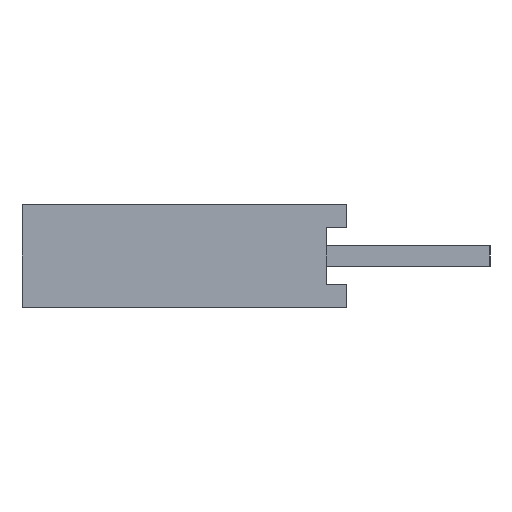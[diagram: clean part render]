
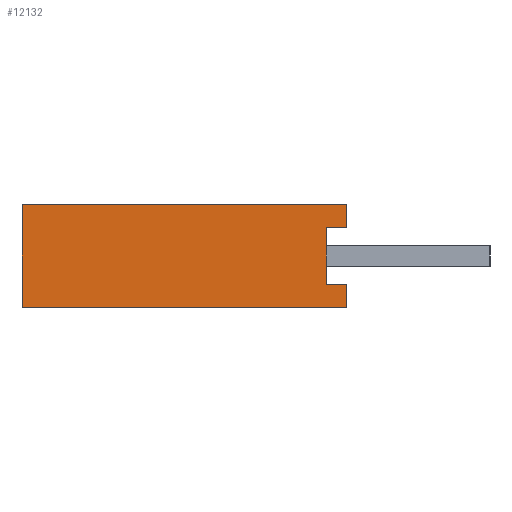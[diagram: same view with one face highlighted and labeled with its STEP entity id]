
A CAD part, left-side view. The second image highlights one B-rep face of the part: STEP entity #12132.
In plain terms, the highlighted planar face has unit normal (-1, 0, 0).
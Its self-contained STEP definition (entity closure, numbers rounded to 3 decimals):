
#436 = CARTESIAN_POINT ( 'NONE',  ( -2.278, -3.149, -1. ) ) ;
#488 = LINE ( 'NONE', #5746, #3385 ) ;
#587 = EDGE_CURVE ( 'NONE', #16760, #14619, #3396, .T. ) ;
#736 = ORIENTED_EDGE ( 'NONE', *, *, #6386, .T. ) ;
#924 = ORIENTED_EDGE ( 'NONE', *, *, #15681, .T. ) ;
#991 = ORIENTED_EDGE ( 'NONE', *, *, #9697, .F. ) ;
#1081 = DIRECTION ( 'NONE',  ( 0., -1., 0. ) ) ;
#1096 = DIRECTION ( 'NONE',  ( 0., 0., 1. ) ) ;
#1111 = CARTESIAN_POINT ( 'NONE',  ( -2.278, 3.201, -1. ) ) ;
#1449 = VERTEX_POINT ( 'NONE', #8250 ) ;
#1476 = EDGE_CURVE ( 'NONE', #16760, #6050, #8951, .T. ) ;
#1763 = ORIENTED_EDGE ( 'NONE', *, *, #587, .T. ) ;
#1770 = AXIS2_PLACEMENT_3D ( 'NONE', #11425, #6393, #6047 ) ;
#2109 = CARTESIAN_POINT ( 'NONE',  ( -2.278, 3.201, 1. ) ) ;
#3385 = VECTOR ( 'NONE', #9904, 1000. ) ;
#3396 = LINE ( 'NONE', #2109, #9323 ) ;
#3675 = CARTESIAN_POINT ( 'NONE',  ( -2.278, 3.201, 1. ) ) ;
#3690 = ORIENTED_EDGE ( 'NONE', *, *, #9805, .T. ) ;
#3997 = DIRECTION ( 'NONE',  ( 0., 0., -1. ) ) ;
#4239 = DIRECTION ( 'NONE',  ( 0., -1., 0. ) ) ;
#5315 = CARTESIAN_POINT ( 'NONE',  ( -2.278, -2.749, 0.55 ) ) ;
#5746 = CARTESIAN_POINT ( 'NONE',  ( -2.278, -3.149, -0.55 ) ) ;
#5776 = LINE ( 'NONE', #11056, #10278 ) ;
#5981 = VERTEX_POINT ( 'NONE', #11048 ) ;
#6033 = LINE ( 'NONE', #1111, #7498 ) ;
#6047 = DIRECTION ( 'NONE',  ( 0., 1., 0. ) ) ;
#6050 = VERTEX_POINT ( 'NONE', #6976 ) ;
#6068 = CARTESIAN_POINT ( 'NONE',  ( -2.278, -3.149, 1. ) ) ;
#6386 = EDGE_CURVE ( 'NONE', #6884, #5981, #488, .T. ) ;
#6393 = DIRECTION ( 'NONE',  ( 1., 0., 0. ) ) ;
#6884 = VERTEX_POINT ( 'NONE', #12727 ) ;
#6918 = ORIENTED_EDGE ( 'NONE', *, *, #1476, .F. ) ;
#6976 = CARTESIAN_POINT ( 'NONE',  ( -2.278, -3.149, 1. ) ) ;
#7498 = VECTOR ( 'NONE', #11312, 1000. ) ;
#7764 = EDGE_CURVE ( 'NONE', #5981, #13530, #15538, .T. ) ;
#8250 = CARTESIAN_POINT ( 'NONE',  ( -2.278, -3.149, 0.55 ) ) ;
#8951 = LINE ( 'NONE', #3675, #12228 ) ;
#9061 = EDGE_LOOP ( 'NONE', ( #15730, #924, #12943, #6918, #1763, #3690, #991, #736 ) ) ;
#9110 = VECTOR ( 'NONE', #1096, 1000. ) ;
#9323 = VECTOR ( 'NONE', #3997, 1000. ) ;
#9697 = EDGE_CURVE ( 'NONE', #6884, #10883, #5776, .T. ) ;
#9805 = EDGE_CURVE ( 'NONE', #14619, #10883, #6033, .T. ) ;
#9904 = DIRECTION ( 'NONE',  ( 0., 1., 0. ) ) ;
#10132 = PLANE ( 'NONE',  #1770 ) ;
#10278 = VECTOR ( 'NONE', #16327, 1000. ) ;
#10810 = LINE ( 'NONE', #16084, #12296 ) ;
#10883 = VERTEX_POINT ( 'NONE', #436 ) ;
#11048 = CARTESIAN_POINT ( 'NONE',  ( -2.278, -2.749, -0.55 ) ) ;
#11056 = CARTESIAN_POINT ( 'NONE',  ( -2.278, -3.149, 1. ) ) ;
#11312 = DIRECTION ( 'NONE',  ( 0., -1., 0. ) ) ;
#11425 = CARTESIAN_POINT ( 'NONE',  ( -2.278, 3.201, 1. ) ) ;
#11812 = CARTESIAN_POINT ( 'NONE',  ( -2.278, -2.749, 0.55 ) ) ;
#11875 = EDGE_CURVE ( 'NONE', #6050, #1449, #16886, .T. ) ;
#12132 = ADVANCED_FACE ( 'NONE', ( #15663 ), #10132, .F. ) ;
#12228 = VECTOR ( 'NONE', #1081, 1000. ) ;
#12296 = VECTOR ( 'NONE', #4239, 1000. ) ;
#12727 = CARTESIAN_POINT ( 'NONE',  ( -2.278, -3.149, -0.55 ) ) ;
#12943 = ORIENTED_EDGE ( 'NONE', *, *, #11875, .F. ) ;
#13346 = VECTOR ( 'NONE', #14213, 1000. ) ;
#13530 = VERTEX_POINT ( 'NONE', #5315 ) ;
#14213 = DIRECTION ( 'NONE',  ( 0., 0., -1. ) ) ;
#14619 = VERTEX_POINT ( 'NONE', #15372 ) ;
#15372 = CARTESIAN_POINT ( 'NONE',  ( -2.278, 3.201, -1. ) ) ;
#15538 = LINE ( 'NONE', #11812, #9110 ) ;
#15663 = FACE_OUTER_BOUND ( 'NONE', #9061, .T. ) ;
#15681 = EDGE_CURVE ( 'NONE', #13530, #1449, #10810, .T. ) ;
#15730 = ORIENTED_EDGE ( 'NONE', *, *, #7764, .T. ) ;
#16084 = CARTESIAN_POINT ( 'NONE',  ( -2.278, -3.149, 0.55 ) ) ;
#16327 = DIRECTION ( 'NONE',  ( 0., 0., -1. ) ) ;
#16705 = CARTESIAN_POINT ( 'NONE',  ( -2.278, 3.201, 1. ) ) ;
#16760 = VERTEX_POINT ( 'NONE', #16705 ) ;
#16886 = LINE ( 'NONE', #6068, #13346 ) ;
